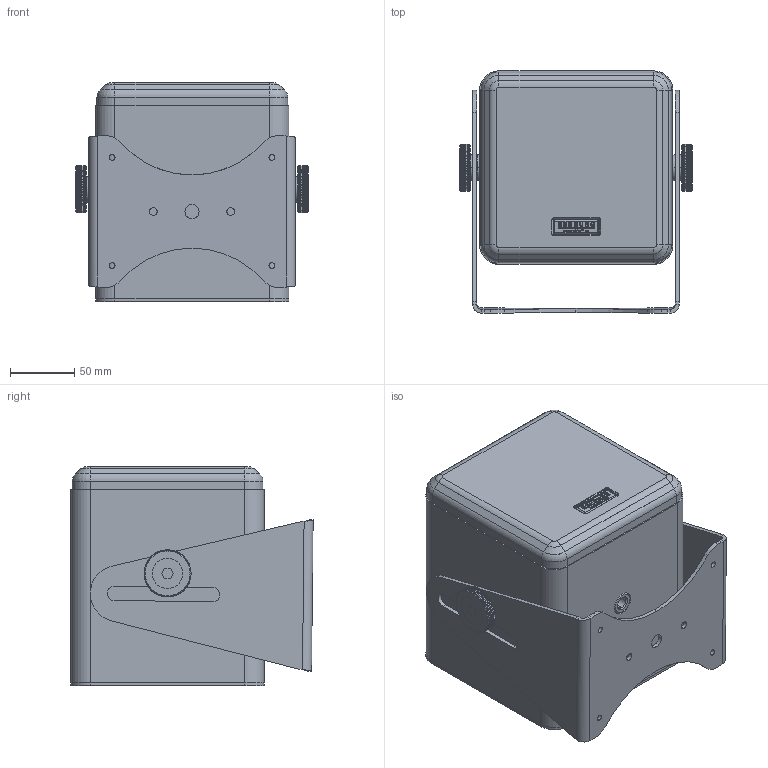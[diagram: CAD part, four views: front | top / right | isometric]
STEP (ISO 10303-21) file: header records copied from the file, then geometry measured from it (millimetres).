
FILE_DESCRIPTION (( 'STEP AP203' ), '1' );
FILE_NAME ('SEEBURG_i5.STEP', '2015-07-14T11:32:14', ( 'Michael Anter' ), ( 'SEEBURG acoustic line GmbH' ), 'SwSTEP 2.0', 'SolidWorks 2009', '' );
FILE_SCHEMA (( 'CONFIG_CONTROL_DESIGN' ));
Length unit declared in the file: millimetre
Products named in the file (18): SEEBURG_i5; i5V8 Korpus; i5V8 Schallwand; i5 Portbrettle 60; i5 Portbrettle 70; i5 Portbrettle 80; i5 Portbrettle 90; ASF i5; m10_flansch_assym; i5 Gitter; Kunststoffscheibe_10-20-2mm; Rändelschraube; Knurled Thin Thumb Screw_DIN_DIN 653 -A M10 x 20 --- 15.5ND; Socket Countersunk Head Screw_DIN_DIN 7991 - M12 x 30 --- 30S; i5-Bügel_Version2; SEEBURG_Logo_neu_Klein; Pan Head Cross Recess Screw_DIN_ISO 7045 - M4 x 12 - Z --- 12S
Assembly tree (33 placements, depth 3):
  SEEBURG_i5
    i5 Portbrettle 60
    Kunststoffscheibe_10-20-2mm  x4
    Pan Head Cross Recess Screw_DIN_ISO 7045 - M4 x 12 - Z --- 12S  x12
    i5 Portbrettle 70
    i5 Portbrettle 90
    i5 Portbrettle 80
    ASF i5
    Rändelschraube  x2
      Knurled Thin Thumb Screw_DIN_DIN 653 -A M10 x 20 --- 15.5ND
      Socket Countersunk Head Screw_DIN_DIN 7991 - M12 x 30 --- 30S
    m10_flansch_assym  x3
    i5-Bügel_Version2
    SEEBURG_Logo_neu_Klein
    i5V8 Schallwand
    i5V8 Korpus
    i5 Gitter
  Rändelschraube
Bounding box: 180.36 x 187.97 x 170 mm (x, y, z)
Volume: 1347653.2 mm3; surface area: 461336 mm2
Topology: 58 solids, 58 shells, 3147 faces, 8297 edges, 5262 vertices
Faces by surface type: cone 1046, plane 956, cylinder 895, bspline 134, torus 88, sphere 28
Entity records: 47441 total; most frequent: CARTESIAN_POINT 15190, ORIENTED_EDGE 6468, DIRECTION 5892, EDGE_CURVE 3234, AXIS2_PLACEMENT_3D 2144, VERTEX_POINT 2082, LINE 1604, VECTOR 1604
